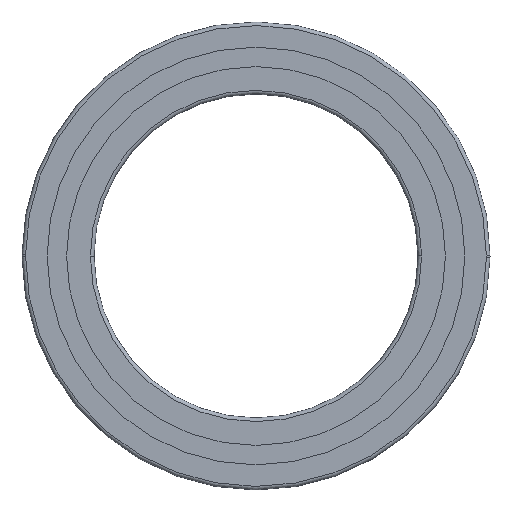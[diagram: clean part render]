
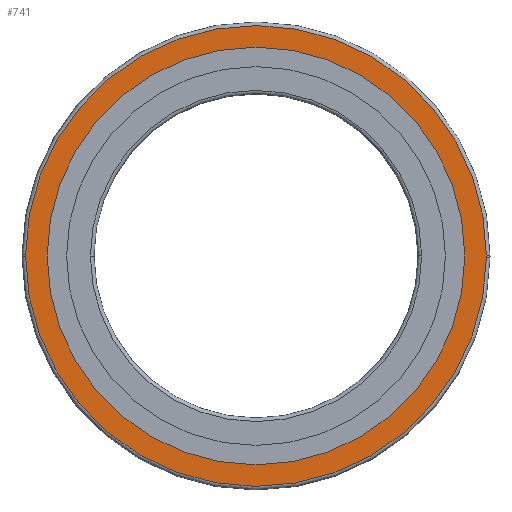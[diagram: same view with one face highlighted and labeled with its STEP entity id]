
A CAD part, front view. The second image highlights one B-rep face of the part: STEP entity #741.
In plain terms, the highlighted planar face has unit normal (0, -1, 0).
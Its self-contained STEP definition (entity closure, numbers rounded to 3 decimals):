
#407=VERTEX_POINT('',#954);
#417=VERTEX_POINT('',#964);
#437=VERTEX_POINT('',#985);
#449=EDGE_CURVE('',#407,#453,#997,.T.);
#453=VERTEX_POINT('',#1001);
#477=EDGE_CURVE('',#453,#407,#1026,.T.);
#481=EDGE_CURVE('',#437,#663,#1030,.T.);
#515=EDGE_CURVE('',#683,#437,#1069,.T.);
#531=EDGE_CURVE('',#417,#683,#1088,.T.);
#663=VERTEX_POINT('',#1235);
#677=EDGE_CURVE('',#663,#417,#1252,.T.);
#683=VERTEX_POINT('',#1259);
#741=ADVANCED_FACE('',(#1331,#1332),#1333,.F.);
#954=CARTESIAN_POINT('',(58.0,0.0,0.0));
#964=CARTESIAN_POINT('',(-64.0,0.0,0.0));
#985=CARTESIAN_POINT('',(64.0,0.0,0.0));
#997=CIRCLE('',#1638,58.0);
#1001=CARTESIAN_POINT('',(-58.0,0.0,0.0));
#1026=CIRCLE('',#1671,58.0);
#1030=CIRCLE('',#1677,64.0);
#1069=CIRCLE('',#1725,64.0);
#1088=CIRCLE('',#1748,64.0);
#1235=CARTESIAN_POINT('',(-63.999,0.0,0.397));
#1252=CIRCLE('',#1953,64.0);
#1259=CARTESIAN_POINT('',(63.999,0.0,-0.397));
#1331=FACE_OUTER_BOUND('',#2042,.T.);
#1332=FACE_BOUND('',#2043,.T.);
#1333=PLANE('',#2044);
#1638=AXIS2_PLACEMENT_3D('',#2327,#2328,#2329);
#1671=AXIS2_PLACEMENT_3D('',#2351,#2352,#2353);
#1677=AXIS2_PLACEMENT_3D('',#2357,#2358,#2359);
#1725=AXIS2_PLACEMENT_3D('',#2418,#2419,#2420);
#1748=AXIS2_PLACEMENT_3D('',#2449,#2450,#2451);
#1953=AXIS2_PLACEMENT_3D('',#2668,#2669,#2670);
#2042=EDGE_LOOP('',(#2816,#2817,#2818,#2819));
#2043=EDGE_LOOP('',(#2820,#2821));
#2044=AXIS2_PLACEMENT_3D('',#2822,#2823,#2824);
#2327=CARTESIAN_POINT('',(0.0,0.0,0.0));
#2328=DIRECTION('',(0.0,-1.0,0.0));
#2329=DIRECTION('',(1.0,0.0,0.0));
#2351=CARTESIAN_POINT('',(0.0,0.0,0.0));
#2352=DIRECTION('',(0.0,-1.0,0.0));
#2353=DIRECTION('',(-1.0,0.0,0.0));
#2357=CARTESIAN_POINT('',(0.0,0.0,0.0));
#2358=DIRECTION('',(0.0,-1.0,0.0));
#2359=DIRECTION('',(1.0,0.0,0.0));
#2418=CARTESIAN_POINT('',(0.0,0.0,0.0));
#2419=DIRECTION('',(0.0,-1.0,0.0));
#2420=DIRECTION('',(-1.0,0.0,0.0));
#2449=CARTESIAN_POINT('',(0.0,0.0,0.0));
#2450=DIRECTION('',(0.0,-1.0,0.0));
#2451=DIRECTION('',(-1.0,0.0,0.0));
#2668=CARTESIAN_POINT('',(0.0,0.0,0.0));
#2669=DIRECTION('',(0.0,-1.0,0.0));
#2670=DIRECTION('',(1.0,0.0,0.0));
#2816=ORIENTED_EDGE('',*,*,#481,.T.);
#2817=ORIENTED_EDGE('',*,*,#677,.T.);
#2818=ORIENTED_EDGE('',*,*,#531,.T.);
#2819=ORIENTED_EDGE('',*,*,#515,.T.);
#2820=ORIENTED_EDGE('',*,*,#477,.F.);
#2821=ORIENTED_EDGE('',*,*,#449,.F.);
#2822=CARTESIAN_POINT('',(0.0,0.0,0.0));
#2823=DIRECTION('',(0.0,1.0,0.0));
#2824=DIRECTION('',(1.0,0.0,-0.0));
